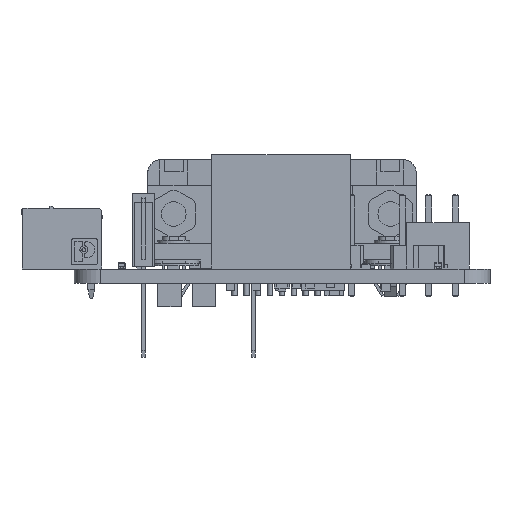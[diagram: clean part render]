
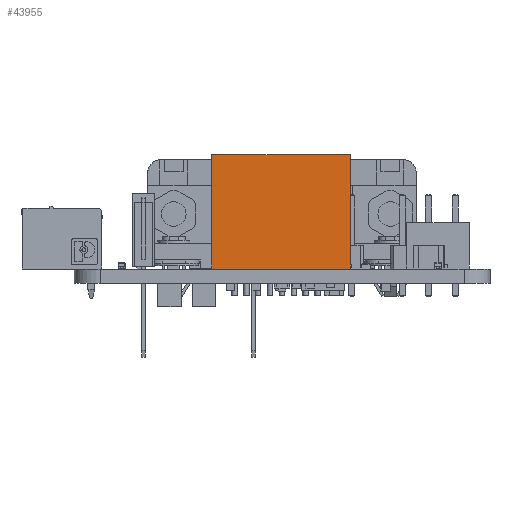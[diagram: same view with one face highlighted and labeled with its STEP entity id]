
A CAD part, left-side view. The second image highlights one B-rep face of the part: STEP entity #43955.
In plain terms, the highlighted planar face has unit normal (-1, 0, 0).
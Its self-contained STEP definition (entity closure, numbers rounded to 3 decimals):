
#43955 = ADVANCED_FACE('',(#43956),#43970,.F.);
#43956 = FACE_BOUND('',#43957,.F.);
#43957 = EDGE_LOOP('',(#43958,#43993,#44021,#44049));
#43958 = ORIENTED_EDGE('',*,*,#43959,.T.);
#43959 = EDGE_CURVE('',#43960,#43962,#43964,.T.);
#43960 = VERTEX_POINT('',#43961);
#43961 = CARTESIAN_POINT('',(-7.7,8.,0.));
#43962 = VERTEX_POINT('',#43963);
#43963 = CARTESIAN_POINT('',(-7.7,8.,13.21));
#43964 = SURFACE_CURVE('',#43965,(#43969,#43981),.PCURVE_S1.);
#43965 = LINE('',#43966,#43967);
#43966 = CARTESIAN_POINT('',(-7.7,8.,0.));
#43967 = VECTOR('',#43968,1.);
#43968 = DIRECTION('',(0.,0.,1.));
#43969 = PCURVE('',#43970,#43975);
#43970 = PLANE('',#43971);
#43971 = AXIS2_PLACEMENT_3D('',#43972,#43973,#43974);
#43972 = CARTESIAN_POINT('',(-7.7,8.,0.));
#43973 = DIRECTION('',(1.,0.,0.));
#43974 = DIRECTION('',(0.,-1.,0.));
#43975 = DEFINITIONAL_REPRESENTATION('',(#43976),#43980);
#43976 = LINE('',#43977,#43978);
#43977 = CARTESIAN_POINT('',(0.,0.));
#43978 = VECTOR('',#43979,1.);
#43979 = DIRECTION('',(0.,-1.));
#43980 = ( GEOMETRIC_REPRESENTATION_CONTEXT(2) 
PARAMETRIC_REPRESENTATION_CONTEXT() REPRESENTATION_CONTEXT('2D SPACE',''
  ) );
#43981 = PCURVE('',#43982,#43987);
#43982 = PLANE('',#43983);
#43983 = AXIS2_PLACEMENT_3D('',#43984,#43985,#43986);
#43984 = CARTESIAN_POINT('',(7.7,8.,0.));
#43985 = DIRECTION('',(0.,-1.,0.));
#43986 = DIRECTION('',(-1.,0.,0.));
#43987 = DEFINITIONAL_REPRESENTATION('',(#43988),#43992);
#43988 = LINE('',#43989,#43990);
#43989 = CARTESIAN_POINT('',(15.4,0.));
#43990 = VECTOR('',#43991,1.);
#43991 = DIRECTION('',(0.,-1.));
#43992 = ( GEOMETRIC_REPRESENTATION_CONTEXT(2) 
PARAMETRIC_REPRESENTATION_CONTEXT() REPRESENTATION_CONTEXT('2D SPACE',''
  ) );
#43993 = ORIENTED_EDGE('',*,*,#43994,.T.);
#43994 = EDGE_CURVE('',#43962,#43995,#43997,.T.);
#43995 = VERTEX_POINT('',#43996);
#43996 = CARTESIAN_POINT('',(-7.7,-8.,13.21));
#43997 = SURFACE_CURVE('',#43998,(#44002,#44009),.PCURVE_S1.);
#43998 = LINE('',#43999,#44000);
#43999 = CARTESIAN_POINT('',(-7.7,8.,13.21));
#44000 = VECTOR('',#44001,1.);
#44001 = DIRECTION('',(0.,-1.,0.));
#44002 = PCURVE('',#43970,#44003);
#44003 = DEFINITIONAL_REPRESENTATION('',(#44004),#44008);
#44004 = LINE('',#44005,#44006);
#44005 = CARTESIAN_POINT('',(0.,-13.21));
#44006 = VECTOR('',#44007,1.);
#44007 = DIRECTION('',(1.,0.));
#44008 = ( GEOMETRIC_REPRESENTATION_CONTEXT(2) 
PARAMETRIC_REPRESENTATION_CONTEXT() REPRESENTATION_CONTEXT('2D SPACE',''
  ) );
#44009 = PCURVE('',#44010,#44015);
#44010 = PLANE('',#44011);
#44011 = AXIS2_PLACEMENT_3D('',#44012,#44013,#44014);
#44012 = CARTESIAN_POINT('',(-7.7,8.,13.21));
#44013 = DIRECTION('',(0.,0.,-1.));
#44014 = DIRECTION('',(-1.,0.,0.));
#44015 = DEFINITIONAL_REPRESENTATION('',(#44016),#44020);
#44016 = LINE('',#44017,#44018);
#44017 = CARTESIAN_POINT('',(0.,0.));
#44018 = VECTOR('',#44019,1.);
#44019 = DIRECTION('',(0.,-1.));
#44020 = ( GEOMETRIC_REPRESENTATION_CONTEXT(2) 
PARAMETRIC_REPRESENTATION_CONTEXT() REPRESENTATION_CONTEXT('2D SPACE',''
  ) );
#44021 = ORIENTED_EDGE('',*,*,#44022,.F.);
#44022 = EDGE_CURVE('',#44023,#43995,#44025,.T.);
#44023 = VERTEX_POINT('',#44024);
#44024 = CARTESIAN_POINT('',(-7.7,-8.,0.));
#44025 = SURFACE_CURVE('',#44026,(#44030,#44037),.PCURVE_S1.);
#44026 = LINE('',#44027,#44028);
#44027 = CARTESIAN_POINT('',(-7.7,-8.,0.));
#44028 = VECTOR('',#44029,1.);
#44029 = DIRECTION('',(0.,0.,1.));
#44030 = PCURVE('',#43970,#44031);
#44031 = DEFINITIONAL_REPRESENTATION('',(#44032),#44036);
#44032 = LINE('',#44033,#44034);
#44033 = CARTESIAN_POINT('',(16.,0.));
#44034 = VECTOR('',#44035,1.);
#44035 = DIRECTION('',(0.,-1.));
#44036 = ( GEOMETRIC_REPRESENTATION_CONTEXT(2) 
PARAMETRIC_REPRESENTATION_CONTEXT() REPRESENTATION_CONTEXT('2D SPACE',''
  ) );
#44037 = PCURVE('',#44038,#44043);
#44038 = PLANE('',#44039);
#44039 = AXIS2_PLACEMENT_3D('',#44040,#44041,#44042);
#44040 = CARTESIAN_POINT('',(-7.7,-8.,0.));
#44041 = DIRECTION('',(0.,1.,0.));
#44042 = DIRECTION('',(1.,0.,0.));
#44043 = DEFINITIONAL_REPRESENTATION('',(#44044),#44048);
#44044 = LINE('',#44045,#44046);
#44045 = CARTESIAN_POINT('',(0.,0.));
#44046 = VECTOR('',#44047,1.);
#44047 = DIRECTION('',(0.,-1.));
#44048 = ( GEOMETRIC_REPRESENTATION_CONTEXT(2) 
PARAMETRIC_REPRESENTATION_CONTEXT() REPRESENTATION_CONTEXT('2D SPACE',''
  ) );
#44049 = ORIENTED_EDGE('',*,*,#44050,.F.);
#44050 = EDGE_CURVE('',#43960,#44023,#44051,.T.);
#44051 = SURFACE_CURVE('',#44052,(#44056,#44063),.PCURVE_S1.);
#44052 = LINE('',#44053,#44054);
#44053 = CARTESIAN_POINT('',(-7.7,8.,0.));
#44054 = VECTOR('',#44055,1.);
#44055 = DIRECTION('',(0.,-1.,0.));
#44056 = PCURVE('',#43970,#44057);
#44057 = DEFINITIONAL_REPRESENTATION('',(#44058),#44062);
#44058 = LINE('',#44059,#44060);
#44059 = CARTESIAN_POINT('',(0.,0.));
#44060 = VECTOR('',#44061,1.);
#44061 = DIRECTION('',(1.,0.));
#44062 = ( GEOMETRIC_REPRESENTATION_CONTEXT(2) 
PARAMETRIC_REPRESENTATION_CONTEXT() REPRESENTATION_CONTEXT('2D SPACE',''
  ) );
#44063 = PCURVE('',#44064,#44069);
#44064 = PLANE('',#44065);
#44065 = AXIS2_PLACEMENT_3D('',#44066,#44067,#44068);
#44066 = CARTESIAN_POINT('',(-7.7,8.,0.));
#44067 = DIRECTION('',(0.,0.,-1.));
#44068 = DIRECTION('',(-1.,0.,0.));
#44069 = DEFINITIONAL_REPRESENTATION('',(#44070),#44074);
#44070 = LINE('',#44071,#44072);
#44071 = CARTESIAN_POINT('',(0.,0.));
#44072 = VECTOR('',#44073,1.);
#44073 = DIRECTION('',(0.,-1.));
#44074 = ( GEOMETRIC_REPRESENTATION_CONTEXT(2) 
PARAMETRIC_REPRESENTATION_CONTEXT() REPRESENTATION_CONTEXT('2D SPACE',''
  ) );
